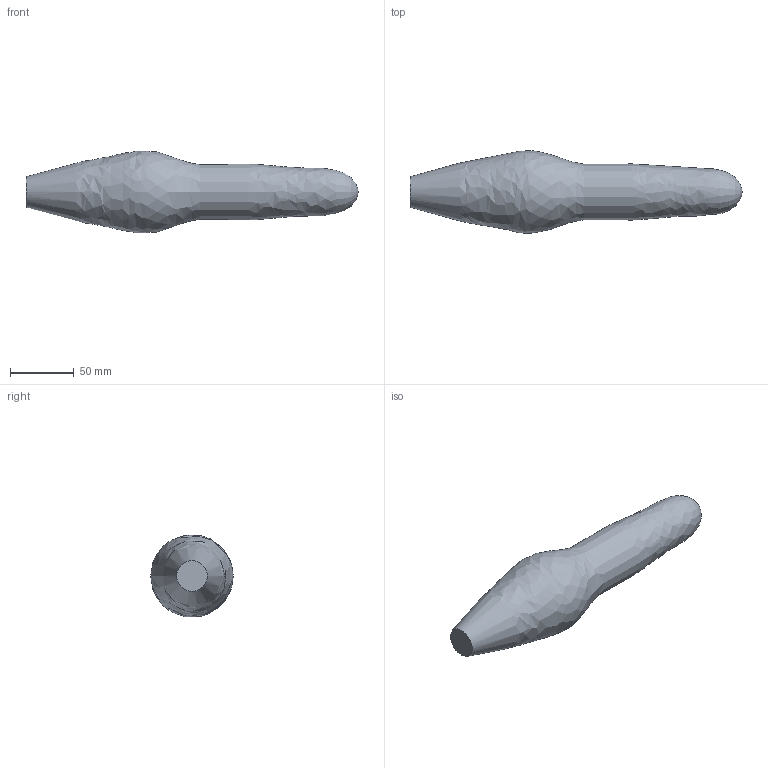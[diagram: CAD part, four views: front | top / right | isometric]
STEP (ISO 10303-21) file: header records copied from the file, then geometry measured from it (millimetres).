
FILE_DESCRIPTION((''),'2;1');
FILE_NAME('J:\Projekte\Kunststoff-Blechteile\Zeichnungen\Bibliothek Inventor\3D Solids\nano\STP\nano-24\detection range 240 mm pipe.stp','2013-05-06T16:12:02',('Oliver Liedtke'),(''),'Autodesk Inventor 2013','Autodesk Inventor 2013','');
FILE_SCHEMA(('AUTOMOTIVE_DESIGN { 1 0 10303 214 1 1 1 1 }'));
Length unit declared in the file: millimetre
Products named in the file (1): detection range 240 mm pipe
Bounding box: 261.03 x 64.92 x 64.45 mm (x, y, z)
Volume: 433033.6 mm3; surface area: 38013.3 mm2
Topology: 1 solids, 1 shells, 2 faces, 3 edges, 2 vertices
Faces by surface type: revolution 1, plane 1
Entity records: 98 total; most frequent: CARTESIAN_POINT 30, DIRECTION 7, ORIENTED_EDGE 4, AXIS2_PLACEMENT_3D 3, DIMENSIONAL_EXPONENTS 2, PLANE_ANGLE_MEASURE_WITH_UNIT 2, UNCERTAINTY_MEASURE_WITH_UNIT 2, B_SPLINE_CURVE_WITH_KNOTS 2
